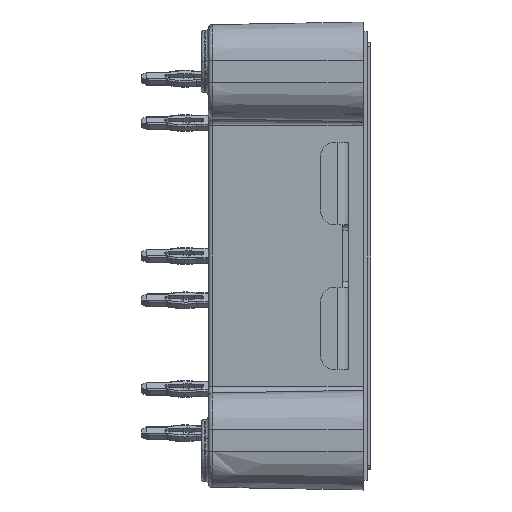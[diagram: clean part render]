
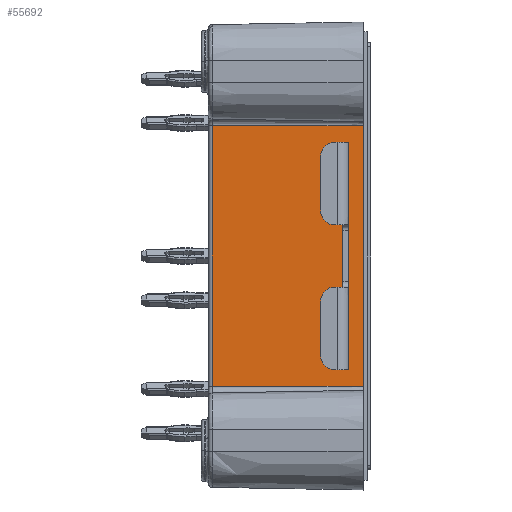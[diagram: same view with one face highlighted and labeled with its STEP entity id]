
A CAD part, left-side view. The second image highlights one B-rep face of the part: STEP entity #55692.
In plain terms, the highlighted planar face has unit normal (-1, 0.018, 0).
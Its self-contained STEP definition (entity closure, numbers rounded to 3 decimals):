
#265 = CARTESIAN_POINT ( 'NONE',  ( -20.31, 11.185, -9.4 ) ) ;
#857 = LINE ( 'NONE', #41688, #176957 ) ;
#10024 = EDGE_CURVE ( 'NONE', #44294, #64344, #99615, .T. ) ;
#10526 = ORIENTED_EDGE ( 'NONE', *, *, #94329, .T. ) ;
#10613 = VERTEX_POINT ( 'NONE', #13711 ) ;
#13711 = CARTESIAN_POINT ( 'NONE',  ( -20.5, 0.28, -9.4 ) ) ;
#22711 = ORIENTED_EDGE ( 'NONE', *, *, #109556, .T. ) ;
#26212 = EDGE_CURVE ( 'NONE', #75214, #53586, #857, .T. ) ;
#28040 = VECTOR ( 'NONE', #137464, 1000. ) ;
#35411 = ORIENTED_EDGE ( 'NONE', *, *, #26212, .F. ) ;
#35976 = DIRECTION ( 'NONE',  ( -0.017, -1., 0. ) ) ;
#40294 = CARTESIAN_POINT ( 'NONE',  ( -20.474, 1.75, 8.2 ) ) ;
#40478 = ORIENTED_EDGE ( 'NONE', *, *, #73946, .T. ) ;
#41688 = CARTESIAN_POINT ( 'NONE',  ( -20.5, 0.28, 9.4 ) ) ;
#43595 = DIRECTION ( 'NONE',  ( 0.017, 1., 0. ) ) ;
#44294 = VERTEX_POINT ( 'NONE', #87015 ) ;
#46174 = CARTESIAN_POINT ( 'NONE',  ( -20.31, 11.185, -9.4 ) ) ;
#49235 = LINE ( 'NONE', #78303, #77983 ) ;
#53586 = VERTEX_POINT ( 'NONE', #101489 ) ;
#55692 = ADVANCED_FACE ( 'NONE', ( #74463, #133501 ), #158088, .T. ) ;
#56704 = VECTOR ( 'NONE', #35976, 1000. ) ;
#56991 = EDGE_CURVE ( 'NONE', #10613, #53586, #49235, .T. ) ;
#62597 = CARTESIAN_POINT ( 'NONE',  ( -20.5, 0.28, 14.1 ) ) ;
#64344 = VERTEX_POINT ( 'NONE', #162987 ) ;
#65929 = LINE ( 'NONE', #135931, #56704 ) ;
#69999 = LINE ( 'NONE', #82725, #159086 ) ;
#70064 = ORIENTED_EDGE ( 'NONE', *, *, #96667, .T. ) ;
#72313 = DIRECTION ( 'NONE',  ( 0., 0., 1. ) ) ;
#73946 = EDGE_CURVE ( 'NONE', #108061, #64344, #167130, .T. ) ;
#74059 = DIRECTION ( 'NONE',  ( -0.017, -1., 0. ) ) ;
#74336 = CARTESIAN_POINT ( 'NONE',  ( -20.474, 1.75, 14.1 ) ) ;
#74463 = FACE_BOUND ( 'NONE', #175429, .T. ) ;
#75214 = VERTEX_POINT ( 'NONE', #84589 ) ;
#76792 = DIRECTION ( 'NONE',  ( -0.017, -1., 0. ) ) ;
#77983 = VECTOR ( 'NONE', #161925, 1000. ) ;
#78303 = CARTESIAN_POINT ( 'NONE',  ( -20.5, 0.28, 14.1 ) ) ;
#82725 = CARTESIAN_POINT ( 'NONE',  ( -20.5, 0.28, -8.2 ) ) ;
#84589 = CARTESIAN_POINT ( 'NONE',  ( -20.31, 11.185, 9.4 ) ) ;
#87015 = CARTESIAN_POINT ( 'NONE',  ( -20.481, 1.35, -8.2 ) ) ;
#94329 = EDGE_CURVE ( 'NONE', #167800, #10613, #65929, .T. ) ;
#95858 = ORIENTED_EDGE ( 'NONE', *, *, #56991, .T. ) ;
#96667 = EDGE_CURVE ( 'NONE', #75214, #167800, #98339, .T. ) ;
#97834 = CARTESIAN_POINT ( 'NONE',  ( -20.481, 1.35, 14.1 ) ) ;
#98339 = LINE ( 'NONE', #265, #28040 ) ;
#99615 = LINE ( 'NONE', #97834, #127128 ) ;
#99841 = LINE ( 'NONE', #74336, #174744 ) ;
#101489 = CARTESIAN_POINT ( 'NONE',  ( -20.5, 0.28, 9.4 ) ) ;
#104430 = DIRECTION ( 'NONE',  ( -1., 0.017, 0. ) ) ;
#106265 = AXIS2_PLACEMENT_3D ( 'NONE', #62597, #104430, #159887 ) ;
#106778 = EDGE_LOOP ( 'NONE', ( #35411, #70064, #10526, #95858 ) ) ;
#108061 = VERTEX_POINT ( 'NONE', #40294 ) ;
#109556 = EDGE_CURVE ( 'NONE', #44294, #121083, #69999, .T. ) ;
#115235 = DIRECTION ( 'NONE',  ( 0., 0., 1. ) ) ;
#116764 = CARTESIAN_POINT ( 'NONE',  ( -20.5, 0.28, 8.2 ) ) ;
#121083 = VERTEX_POINT ( 'NONE', #137285 ) ;
#127128 = VECTOR ( 'NONE', #72313, 1000. ) ;
#133501 = FACE_OUTER_BOUND ( 'NONE', #106778, .T. ) ;
#135931 = CARTESIAN_POINT ( 'NONE',  ( -20.5, 0.28, -9.4 ) ) ;
#136851 = EDGE_CURVE ( 'NONE', #121083, #108061, #99841, .T. ) ;
#137285 = CARTESIAN_POINT ( 'NONE',  ( -20.474, 1.75, -8.2 ) ) ;
#137464 = DIRECTION ( 'NONE',  ( 0., 0., -1. ) ) ;
#158088 = PLANE ( 'NONE',  #106265 ) ;
#159086 = VECTOR ( 'NONE', #43595, 1000. ) ;
#159887 = DIRECTION ( 'NONE',  ( 0., 0., 1. ) ) ;
#161925 = DIRECTION ( 'NONE',  ( 0., 0., 1. ) ) ;
#161957 = VECTOR ( 'NONE', #74059, 1000. ) ;
#162987 = CARTESIAN_POINT ( 'NONE',  ( -20.481, 1.35, 8.2 ) ) ;
#164687 = ORIENTED_EDGE ( 'NONE', *, *, #10024, .F. ) ;
#167130 = LINE ( 'NONE', #116764, #161957 ) ;
#167800 = VERTEX_POINT ( 'NONE', #46174 ) ;
#174744 = VECTOR ( 'NONE', #115235, 1000. ) ;
#175429 = EDGE_LOOP ( 'NONE', ( #22711, #177748, #40478, #164687 ) ) ;
#176957 = VECTOR ( 'NONE', #76792, 1000. ) ;
#177748 = ORIENTED_EDGE ( 'NONE', *, *, #136851, .T. ) ;
